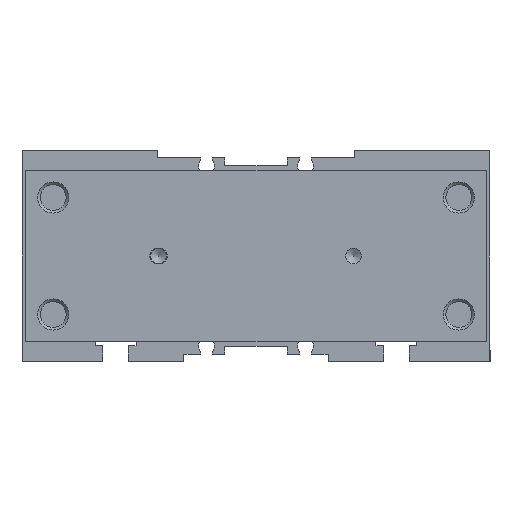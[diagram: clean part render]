
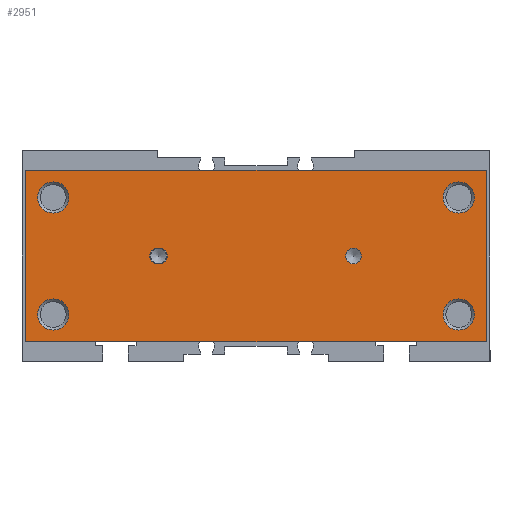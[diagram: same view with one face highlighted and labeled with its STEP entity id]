
A CAD part, left-side view. The second image highlights one B-rep face of the part: STEP entity #2951.
In plain terms, the highlighted planar face has unit normal (-1, 0, 0) as drawn and (0, 0, 1) by its records, which use the part's own axes.
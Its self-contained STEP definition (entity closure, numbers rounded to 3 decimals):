
#249=CIRCLE('',#3284,4.);
#250=CIRCLE('',#3285,4.);
#251=CIRCLE('',#3286,4.);
#252=CIRCLE('',#3287,4.);
#253=CIRCLE('',#3288,2.);
#254=CIRCLE('',#3289,2.);
#255=CIRCLE('',#3290,2.);
#870=ORIENTED_EDGE('',*,*,#1298,.F.);
#871=ORIENTED_EDGE('',*,*,#1299,.F.);
#872=ORIENTED_EDGE('',*,*,#1300,.F.);
#873=ORIENTED_EDGE('',*,*,#1301,.F.);
#874=ORIENTED_EDGE('',*,*,#1302,.F.);
#875=ORIENTED_EDGE('',*,*,#1303,.F.);
#876=ORIENTED_EDGE('',*,*,#1304,.F.);
#877=ORIENTED_EDGE('',*,*,#1305,.F.);
#878=ORIENTED_EDGE('',*,*,#1306,.F.);
#879=ORIENTED_EDGE('',*,*,#1279,.T.);
#880=ORIENTED_EDGE('',*,*,#1283,.T.);
#881=ORIENTED_EDGE('',*,*,#1286,.T.);
#882=ORIENTED_EDGE('',*,*,#1289,.T.);
#1279=EDGE_CURVE('',#1578,#1579,#1825,.T.);
#1283=EDGE_CURVE('',#1579,#1582,#1829,.T.);
#1286=EDGE_CURVE('',#1582,#1584,#1832,.T.);
#1289=EDGE_CURVE('',#1584,#1578,#1835,.T.);
#1298=EDGE_CURVE('',#1593,#1593,#249,.T.);
#1299=EDGE_CURVE('',#1594,#1594,#250,.T.);
#1300=EDGE_CURVE('',#1595,#1595,#251,.T.);
#1301=EDGE_CURVE('',#1596,#1596,#252,.T.);
#1302=EDGE_CURVE('',#1597,#1597,#253,.T.);
#1303=EDGE_CURVE('',#1598,#1599,#254,.T.);
#1304=EDGE_CURVE('',#1600,#1598,#1837,.T.);
#1305=EDGE_CURVE('',#1601,#1600,#255,.T.);
#1306=EDGE_CURVE('',#1599,#1601,#1838,.T.);
#1578=VERTEX_POINT('',#4887);
#1579=VERTEX_POINT('',#4888);
#1582=VERTEX_POINT('',#4896);
#1584=VERTEX_POINT('',#4902);
#1593=VERTEX_POINT('',#4926);
#1594=VERTEX_POINT('',#4928);
#1595=VERTEX_POINT('',#4930);
#1596=VERTEX_POINT('',#4932);
#1597=VERTEX_POINT('',#4934);
#1598=VERTEX_POINT('',#4936);
#1599=VERTEX_POINT('',#4937);
#1600=VERTEX_POINT('',#4939);
#1601=VERTEX_POINT('',#4941);
#1825=LINE('',#4886,#2049);
#1829=LINE('',#4895,#2053);
#1832=LINE('',#4901,#2056);
#1835=LINE('',#4907,#2059);
#1837=LINE('',#4938,#2061);
#1838=LINE('',#4942,#2062);
#2049=VECTOR('',#4025,1000.);
#2053=VECTOR('',#4031,1000.);
#2056=VECTOR('',#4036,1000.);
#2059=VECTOR('',#4041,1000.);
#2061=VECTOR('',#4073,1000.);
#2062=VECTOR('',#4076,1000.);
#2319=EDGE_LOOP('',(#870));
#2320=EDGE_LOOP('',(#871));
#2321=EDGE_LOOP('',(#872));
#2322=EDGE_LOOP('',(#873));
#2323=EDGE_LOOP('',(#874));
#2324=EDGE_LOOP('',(#875,#876,#877,#878));
#2325=EDGE_LOOP('',(#879,#880,#881,#882));
#2633=FACE_BOUND('',#2319,.T.);
#2634=FACE_BOUND('',#2320,.T.);
#2635=FACE_BOUND('',#2321,.T.);
#2636=FACE_BOUND('',#2322,.T.);
#2637=FACE_BOUND('',#2323,.T.);
#2638=FACE_BOUND('',#2324,.T.);
#2639=FACE_BOUND('',#2325,.T.);
#2788=PLANE('',#3283);
#2951=ADVANCED_FACE('',(#2633,#2634,#2635,#2636,#2637,#2638,#2639),#2788,
 .T.);
#3283=AXIS2_PLACEMENT_3D('',#4924,#4059,#4060);
#3284=AXIS2_PLACEMENT_3D('',#4925,#4061,#4062);
#3285=AXIS2_PLACEMENT_3D('',#4927,#4063,#4064);
#3286=AXIS2_PLACEMENT_3D('',#4929,#4065,#4066);
#3287=AXIS2_PLACEMENT_3D('',#4931,#4067,#4068);
#3288=AXIS2_PLACEMENT_3D('',#4933,#4069,#4070);
#3289=AXIS2_PLACEMENT_3D('',#4935,#4071,#4072);
#3290=AXIS2_PLACEMENT_3D('',#4940,#4074,#4075);
#4025=DIRECTION('',(0.,-1.,0.));
#4031=DIRECTION('',(1.,0.,0.));
#4036=DIRECTION('',(0.,1.,0.));
#4041=DIRECTION('',(-1.,0.,0.));
#4059=DIRECTION('',(0.,0.,1.));
#4060=DIRECTION('',(1.,0.,0.));
#4061=DIRECTION('',(0.,0.,1.));
#4062=DIRECTION('',(1.,0.,0.));
#4063=DIRECTION('',(0.,0.,1.));
#4064=DIRECTION('',(1.,0.,0.));
#4065=DIRECTION('',(0.,0.,1.));
#4066=DIRECTION('',(1.,0.,0.));
#4067=DIRECTION('',(0.,0.,1.));
#4068=DIRECTION('',(1.,0.,0.));
#4069=DIRECTION('',(0.,0.,1.));
#4070=DIRECTION('',(1.,0.,0.));
#4071=DIRECTION('',(0.,0.,1.));
#4072=DIRECTION('',(1.,0.,0.));
#4073=DIRECTION('',(0.,1.,0.));
#4074=DIRECTION('',(0.,0.,1.));
#4075=DIRECTION('',(1.,0.,0.));
#4076=DIRECTION('',(0.,-1.,0.));
#4886=CARTESIAN_POINT('',(-22.,59.,22.));
#4887=CARTESIAN_POINT('',(-22.,59.,22.));
#4888=CARTESIAN_POINT('',(-22.,-59.,22.));
#4895=CARTESIAN_POINT('',(-22.,-59.,22.));
#4896=CARTESIAN_POINT('',(22.,-59.,22.));
#4901=CARTESIAN_POINT('',(22.,-59.,22.));
#4902=CARTESIAN_POINT('',(22.,59.,22.));
#4907=CARTESIAN_POINT('',(22.,59.,22.));
#4924=CARTESIAN_POINT('',(0.,0.,22.));
#4925=CARTESIAN_POINT('',(-15.,52.,22.));
#4926=CARTESIAN_POINT('',(-11.,52.,22.));
#4927=CARTESIAN_POINT('',(15.,52.,22.));
#4928=CARTESIAN_POINT('',(19.,52.,22.));
#4929=CARTESIAN_POINT('',(-15.,-52.,22.));
#4930=CARTESIAN_POINT('',(-11.,-52.,22.));
#4931=CARTESIAN_POINT('',(15.,-52.,22.));
#4932=CARTESIAN_POINT('',(19.,-52.,22.));
#4933=CARTESIAN_POINT('',(0.,-25.,22.));
#4934=CARTESIAN_POINT('',(2.,-25.,22.));
#4935=CARTESIAN_POINT('',(0.,25.25,22.));
#4936=CARTESIAN_POINT('',(2.,25.25,22.));
#4937=CARTESIAN_POINT('',(-2.,25.25,22.));
#4938=CARTESIAN_POINT('',(2.,24.75,22.));
#4939=CARTESIAN_POINT('',(2.,24.75,22.));
#4940=CARTESIAN_POINT('',(0.,24.75,22.));
#4941=CARTESIAN_POINT('',(-2.,24.75,22.));
#4942=CARTESIAN_POINT('',(-2.,25.25,22.));
